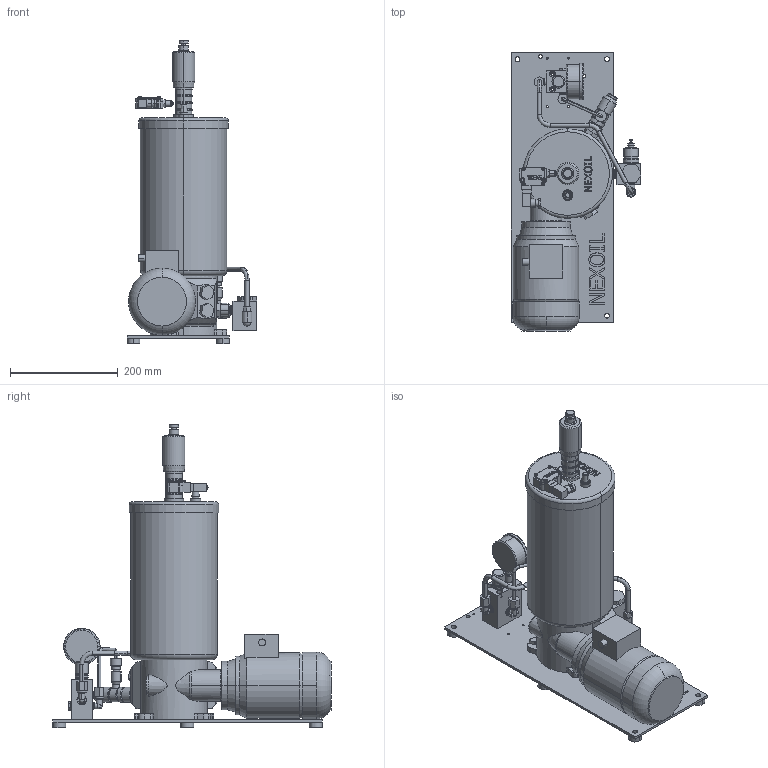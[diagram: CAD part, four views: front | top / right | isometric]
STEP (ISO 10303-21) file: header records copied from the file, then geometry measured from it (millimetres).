
FILE_DESCRIPTION((''),'2;1');
FILE_NAME('FM1_5KG.stp','2017-06-05T14:28:42',(''),(''),'Mechanical Desktop 2008','Mechanical Desktop 2008',', , ');
FILE_SCHEMA(('AUTOMOTIVE_DESIGN { 1 2 10303 214 1 1 1 1 }'));
Length unit declared in the file: millimetre
Products named in the file (24): 6015066; PART1AAA; 7050013; PART1AA; 9083005; PART1; 8289009; PART2; 8128004; PART1A; 8289010; PART3A; PART2A; ~~~PART1; ~~PART2; ~~(SHEETMETAL) TAPPING SCREW - ISO 7049 - ST 2.9 X 6.5 - C - H; ~PART1; ~~~~PART1; ~~~~~PART1; ~~~~~~PART1; ~~~~~~~PART1; ~~~~~~~~PART1; PART3; PART4
Assembly tree (25 placements, depth 3):
  6015066
    PART1AAA
    7050013
      PART1AA
    9083005
      PART1
    8289009
      PART2
    8128004
      PART1A
    8289010  x3
      PART3A
    PART2A
    ~~~PART1
    ~~PART2
    ~~(SHEETMETAL) TAPPING SCREW - ISO 7049 - ST 2.9 X 6.5 - C - H
    ~PART1
    ~~~~PART1
    ~~~~~PART1
    ~~~~~~PART1
    ~~~~~~~PART1
    ~~~~~~~~PART1
    PART3
    PART4
Bounding box: 241.02 x 517 x 562.76 mm (x, y, z)
Volume: 10604872.8 mm3; surface area: 776527.2 mm2
Topology: 24 solids, 24 shells, 1486 faces, 3692 edges, 2376 vertices
Faces by surface type: plane 711, cylinder 397, bspline 164, cone 164, torus 41, sphere 9
Full cylindrical faces by diameter (mm): 26.533 x1
Entity records: 45166 total; most frequent: CARTESIAN_POINT 10700, ORIENTED_EDGE 7108, DIRECTION 6967, EDGE_CURVE 3554, AXIS2_PLACEMENT_3D 2449, VERTEX_POINT 2291, VECTOR 2069, LINE 2069
